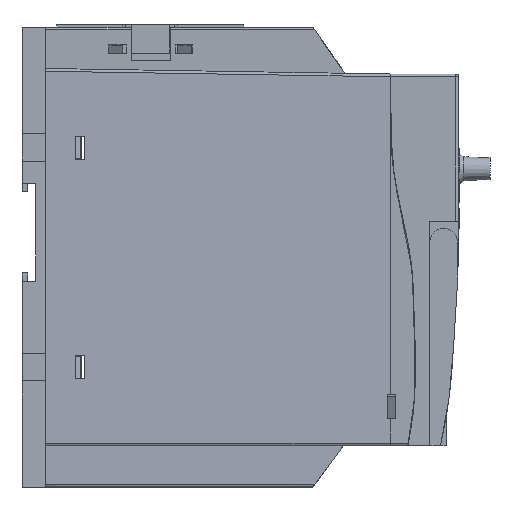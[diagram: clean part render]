
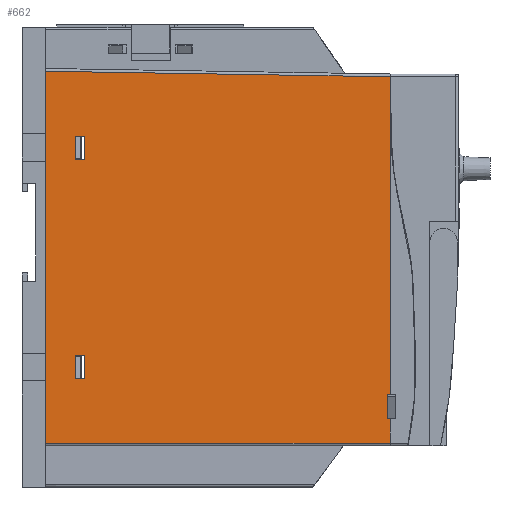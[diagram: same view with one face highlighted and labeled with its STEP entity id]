
A CAD part, front view. The second image highlights one B-rep face of the part: STEP entity #662.
In plain terms, the highlighted planar face has unit normal (0.007, -1, 0) as drawn and (1, 0.007, 0) by its records, which use the part's own axes.
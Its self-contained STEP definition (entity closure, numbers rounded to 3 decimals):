
#662=ADVANCED_FACE('',(#6342,#6344,#6346),#6348,.F.);
#6342=FACE_BOUND('',#6343,.T.);
#6343=EDGE_LOOP('',(#15720,#15721,#15722,#15723,#15724,#15725,#15726,#15727,#15728));
#6344=FACE_BOUND('',#6345,.T.);
#6345=EDGE_LOOP('',(#15729,#15730,#15731,#15732));
#6346=FACE_BOUND('',#6347,.T.);
#6347=EDGE_LOOP('',(#15733,#15734,#15735,#15736));
#6348=PLANE('',#6349);
#6349=AXIS2_PLACEMENT_3D('',#6350,#6351,#6352);
#6350=CARTESIAN_POINT('',(133.95,-6.4,0.));
#6351=DIRECTION('',(-1.,-0.007,0.));
#6352=DIRECTION('',(0.007,-1.,0.));
#15720=ORIENTED_EDGE('',*,*,#22294,.F.);
#15721=ORIENTED_EDGE('',*,*,#22295,.T.);
#15722=ORIENTED_EDGE('',*,*,#22296,.T.);
#15723=ORIENTED_EDGE('',*,*,#22297,.T.);
#15724=ORIENTED_EDGE('',*,*,#22298,.T.);
#15725=ORIENTED_EDGE('',*,*,#22299,.T.);
#15726=ORIENTED_EDGE('',*,*,#22178,.F.);
#15727=ORIENTED_EDGE('',*,*,#22300,.F.);
#15728=ORIENTED_EDGE('',*,*,#22095,.F.);
#15729=ORIENTED_EDGE('',*,*,#22301,.T.);
#15730=ORIENTED_EDGE('',*,*,#22302,.T.);
#15731=ORIENTED_EDGE('',*,*,#22303,.T.);
#15732=ORIENTED_EDGE('',*,*,#22304,.T.);
#15733=ORIENTED_EDGE('',*,*,#22305,.T.);
#15734=ORIENTED_EDGE('',*,*,#22306,.T.);
#15735=ORIENTED_EDGE('',*,*,#22307,.T.);
#15736=ORIENTED_EDGE('',*,*,#22308,.T.);
#22095=EDGE_CURVE('',#26077,#26079,#26080,.F.);
#22178=EDGE_CURVE('',#26231,#26233,#26234,.F.);
#22294=EDGE_CURVE('',#26419,#26077,#26420,.F.);
#22295=EDGE_CURVE('',#26419,#26421,#26422,.T.);
#22296=EDGE_CURVE('',#26421,#26423,#26424,.T.);
#22297=EDGE_CURVE('',#26423,#26425,#26426,.T.);
#22298=EDGE_CURVE('',#26425,#26427,#26428,.T.);
#22299=EDGE_CURVE('',#26427,#26233,#26429,.T.);
#22300=EDGE_CURVE('',#26079,#26231,#26430,.F.);
#22301=EDGE_CURVE('',#26431,#26432,#26433,.T.);
#22302=EDGE_CURVE('',#26432,#26434,#26435,.T.);
#22303=EDGE_CURVE('',#26434,#26436,#26437,.T.);
#22304=EDGE_CURVE('',#26436,#26431,#26438,.T.);
#22305=EDGE_CURVE('',#26439,#26440,#26441,.T.);
#22306=EDGE_CURVE('',#26440,#26442,#26443,.T.);
#22307=EDGE_CURVE('',#26442,#26444,#26445,.T.);
#22308=EDGE_CURVE('',#26444,#26439,#26446,.T.);
#26077=VERTEX_POINT('',#33238);
#26079=VERTEX_POINT('',#33243);
#26080=LINE('',#33244,#33245);
#26231=VERTEX_POINT('',#33679);
#26233=VERTEX_POINT('',#33697);
#26234=B_SPLINE_CURVE_WITH_KNOTS('',3,
(#33698,#33699,#33700,#33701,#33702,#33703,#33704,#33705,#33706,#33707,#33708,#33709,
#33710,#33711,#33712,#33713,#33714,#33715,#33716,#33717,#33718),
.UNSPECIFIED.,.F.,.F.,
(4,1,1,1,1,1,1,1,1,1,1,1,1,1,1,1,1,1,4),
(0.,0.061,0.122,0.182,0.24,0.298,
0.353,0.407,0.459,0.475,0.51,
0.559,0.607,0.653,0.698,0.746,
0.799,0.885,1.),
.UNSPECIFIED.);
#26419=VERTEX_POINT('',#34180);
#26420=LINE('',#34181,#34182);
#26421=VERTEX_POINT('',#34184);
#26422=LINE('',#34185,#34186);
#26423=VERTEX_POINT('',#34188);
#26424=LINE('',#34189,#34190);
#26425=VERTEX_POINT('',#34192);
#26426=LINE('',#34193,#34194);
#26427=VERTEX_POINT('',#34196);
#26428=LINE('',#34197,#34198);
#26429=LINE('',#34200,#34201);
#26430=LINE('',#34203,#34204);
#26431=VERTEX_POINT('',#34206);
#26432=VERTEX_POINT('',#34207);
#26433=LINE('',#34208,#34209);
#26434=VERTEX_POINT('',#34211);
#26435=LINE('',#34212,#34213);
#26436=VERTEX_POINT('',#34215);
#26437=LINE('',#34216,#34217);
#26438=LINE('',#34219,#34220);
#26439=VERTEX_POINT('',#34222);
#26440=VERTEX_POINT('',#34223);
#26441=LINE('',#34224,#34225);
#26442=VERTEX_POINT('',#34227);
#26443=LINE('',#34228,#34229);
#26444=VERTEX_POINT('',#34231);
#26445=LINE('',#34232,#34233);
#26446=LINE('',#34235,#34236);
#33238=CARTESIAN_POINT('',(134.8,-131.4,1.));
#33243=CARTESIAN_POINT('',(134.8,-131.4,136.));
#33244=CARTESIAN_POINT('',(134.8,-131.4,136.));
#33245=VECTOR('',#33246,1.);
#33246=DIRECTION('',(0.,0.,-1.));
#33679=CARTESIAN_POINT('',(133.95,-6.419,134.));
#33697=CARTESIAN_POINT('',(133.95,-6.4,116.381));
#33698=CARTESIAN_POINT('',(133.95,-6.4,116.381));
#33699=CARTESIAN_POINT('',(133.95,-6.411,116.74));
#33700=CARTESIAN_POINT('',(133.95,-6.43,117.456));
#33701=CARTESIAN_POINT('',(133.95,-6.455,118.523));
#33702=CARTESIAN_POINT('',(133.951,-6.475,119.573));
#33703=CARTESIAN_POINT('',(133.951,-6.49,120.606));
#33704=CARTESIAN_POINT('',(133.951,-6.502,121.613));
#33705=CARTESIAN_POINT('',(133.951,-6.51,122.596));
#33706=CARTESIAN_POINT('',(133.951,-6.514,123.544));
#33707=CARTESIAN_POINT('',(133.951,-6.516,124.257));
#33708=CARTESIAN_POINT('',(133.951,-6.516,124.862));
#33709=CARTESIAN_POINT('',(133.951,-6.515,125.45));
#33710=CARTESIAN_POINT('',(133.951,-6.513,126.229));
#33711=CARTESIAN_POINT('',(133.951,-6.509,127.065));
#33712=CARTESIAN_POINT('',(133.951,-6.503,127.878));
#33713=CARTESIAN_POINT('',(133.951,-6.496,128.696));
#33714=CARTESIAN_POINT('',(133.951,-6.487,129.557));
#33715=CARTESIAN_POINT('',(133.95,-6.473,130.658));
#33716=CARTESIAN_POINT('',(133.95,-6.452,132.147));
#33717=CARTESIAN_POINT('',(133.95,-6.431,133.326));
#33718=CARTESIAN_POINT('',(133.95,-6.419,134.));
#34180=CARTESIAN_POINT('',(133.95,-6.4,1.));
#34181=CARTESIAN_POINT('',(134.8,-131.4,1.));
#34182=VECTOR('',#34183,1.);
#34183=DIRECTION('',(-0.007,1.,0.));
#34184=CARTESIAN_POINT('',(133.95,-6.4,9.9));
#34185=CARTESIAN_POINT('',(133.95,-6.4,1.));
#34186=VECTOR('',#34187,1.);
#34187=DIRECTION('',(0.,0.,1.));
#34188=CARTESIAN_POINT('',(133.957,-7.5,9.9));
#34189=CARTESIAN_POINT('',(133.95,-6.4,9.9));
#34190=VECTOR('',#34191,1.);
#34191=DIRECTION('',(0.007,-1.,0.));
#34192=CARTESIAN_POINT('',(133.957,-7.5,18.7));
#34193=CARTESIAN_POINT('',(133.957,-7.5,9.9));
#34194=VECTOR('',#34195,1.);
#34195=DIRECTION('',(0.,0.,1.));
#34196=CARTESIAN_POINT('',(133.95,-6.4,18.7));
#34197=CARTESIAN_POINT('',(133.957,-7.5,18.7));
#34198=VECTOR('',#34199,1.);
#34199=DIRECTION('',(-0.007,1.,0.));
#34200=CARTESIAN_POINT('',(133.95,-6.4,18.7));
#34201=VECTOR('',#34202,1.);
#34202=DIRECTION('',(0.,0.,1.));
#34203=CARTESIAN_POINT('',(133.95,-6.419,134.));
#34204=VECTOR('',#34205,1.);
#34205=DIRECTION('',(0.007,-1.,0.016));
#34206=CARTESIAN_POINT('',(134.703,-117.2,33.));
#34207=CARTESIAN_POINT('',(134.703,-117.2,24.6));
#34208=CARTESIAN_POINT('',(134.703,-117.2,33.));
#34209=VECTOR('',#34210,1.);
#34210=DIRECTION('',(0.,0.,-1.));
#34211=CARTESIAN_POINT('',(134.727,-120.7,24.6));
#34212=CARTESIAN_POINT('',(134.703,-117.2,24.6));
#34213=VECTOR('',#34214,1.);
#34214=DIRECTION('',(0.007,-1.,0.));
#34215=CARTESIAN_POINT('',(134.727,-120.7,33.));
#34216=CARTESIAN_POINT('',(134.727,-120.7,24.6));
#34217=VECTOR('',#34218,1.);
#34218=DIRECTION('',(0.,0.,1.));
#34219=CARTESIAN_POINT('',(134.727,-120.7,33.));
#34220=VECTOR('',#34221,1.);
#34221=DIRECTION('',(-0.007,1.,0.));
#34222=CARTESIAN_POINT('',(134.727,-120.7,104.1));
#34223=CARTESIAN_POINT('',(134.727,-120.7,112.5));
#34224=CARTESIAN_POINT('',(134.727,-120.7,104.1));
#34225=VECTOR('',#34226,1.);
#34226=DIRECTION('',(0.,0.,1.));
#34227=CARTESIAN_POINT('',(134.703,-117.2,112.5));
#34228=CARTESIAN_POINT('',(134.727,-120.7,112.5));
#34229=VECTOR('',#34230,1.);
#34230=DIRECTION('',(-0.007,1.,0.));
#34231=CARTESIAN_POINT('',(134.703,-117.2,104.1));
#34232=CARTESIAN_POINT('',(134.703,-117.2,112.5));
#34233=VECTOR('',#34234,1.);
#34234=DIRECTION('',(0.,0.,-1.));
#34235=CARTESIAN_POINT('',(134.703,-117.2,104.1));
#34236=VECTOR('',#34237,1.);
#34237=DIRECTION('',(0.007,-1.,0.));
